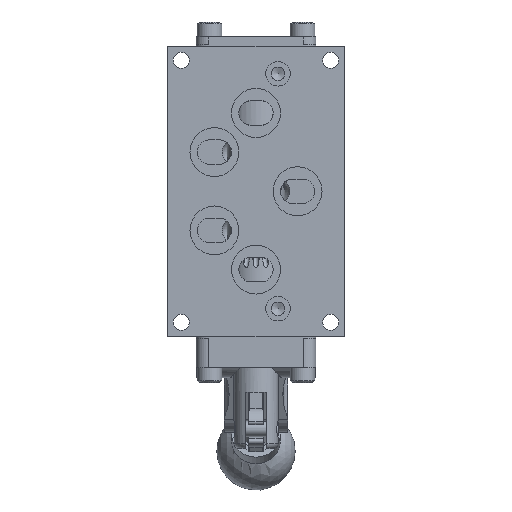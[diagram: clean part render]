
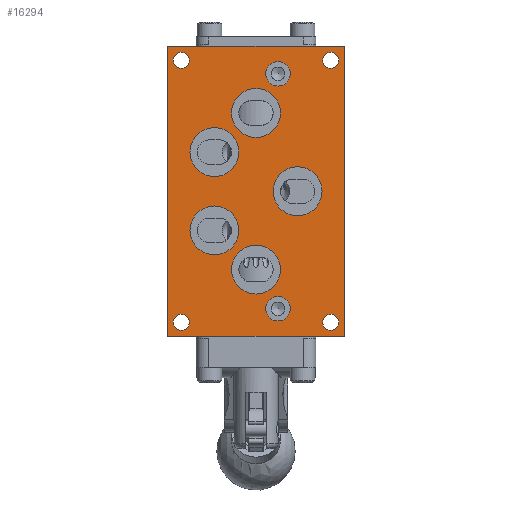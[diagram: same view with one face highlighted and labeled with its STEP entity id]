
A CAD part, front view. The second image highlights one B-rep face of the part: STEP entity #16294.
In plain terms, the highlighted planar face has unit normal (0, -1, 0).
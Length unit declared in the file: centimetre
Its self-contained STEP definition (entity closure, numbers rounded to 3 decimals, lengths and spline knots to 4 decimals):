
#1923=FACE_BOUND('',#3227,.T.);
#1924=FACE_BOUND('',#3228,.T.);
#1925=FACE_BOUND('',#3229,.T.);
#1926=FACE_BOUND('',#3230,.T.);
#1927=FACE_BOUND('',#3231,.T.);
#1928=FACE_BOUND('',#3232,.T.);
#1929=FACE_BOUND('',#3233,.T.);
#1930=FACE_BOUND('',#3234,.T.);
#1931=FACE_BOUND('',#3235,.T.);
#1932=FACE_BOUND('',#3236,.T.);
#1933=FACE_BOUND('',#3237,.T.);
#2202=FACE_OUTER_BOUND('',#3226,.T.);
#3226=EDGE_LOOP('',(#11917,#11918,#11919,#11920));
#3227=EDGE_LOOP('',(#11921));
#3228=EDGE_LOOP('',(#11922));
#3229=EDGE_LOOP('',(#11923));
#3230=EDGE_LOOP('',(#11924));
#3231=EDGE_LOOP('',(#11925));
#3232=EDGE_LOOP('',(#11926));
#3233=EDGE_LOOP('',(#11927));
#3234=EDGE_LOOP('',(#11928));
#3235=EDGE_LOOP('',(#11929));
#3236=EDGE_LOOP('',(#11930));
#3237=EDGE_LOOP('',(#11931));
#4325=CIRCLE('',#17470,0.3962);
#4329=CIRCLE('',#17478,0.3962);
#4331=CIRCLE('',#17483,0.7938);
#4333=CIRCLE('',#17487,0.7938);
#4335=CIRCLE('',#17491,0.7938);
#4337=CIRCLE('',#17495,0.7938);
#4339=CIRCLE('',#17499,0.7938);
#4342=CIRCLE('',#17504,0.258);
#4345=CIRCLE('',#17509,0.258);
#4348=CIRCLE('',#17514,0.258);
#4351=CIRCLE('',#17519,0.258);
#5144=LINE('',#24245,#6232);
#5158=LINE('',#24289,#6246);
#5285=LINE('',#25103,#6373);
#5286=LINE('',#25107,#6374);
#6232=VECTOR('',#19341,1.);
#6246=VECTOR('',#19373,1.);
#6373=VECTOR('',#19992,1.);
#6374=VECTOR('',#19999,1.);
#7341=VERTEX_POINT('',#24241);
#7343=VERTEX_POINT('',#24244);
#7362=VERTEX_POINT('',#24285);
#7364=VERTEX_POINT('',#24288);
#7512=VERTEX_POINT('',#24984);
#7517=VERTEX_POINT('',#25000);
#7519=VERTEX_POINT('',#25009);
#7521=VERTEX_POINT('',#25016);
#7523=VERTEX_POINT('',#25023);
#7525=VERTEX_POINT('',#25030);
#7527=VERTEX_POINT('',#25037);
#7531=VERTEX_POINT('',#25049);
#7535=VERTEX_POINT('',#25061);
#7539=VERTEX_POINT('',#25073);
#7543=VERTEX_POINT('',#25085);
#8896=EDGE_CURVE('',#7343,#7341,#5144,.T.);
#8917=EDGE_CURVE('',#7364,#7362,#5158,.T.);
#9135=EDGE_CURVE('',#7512,#7512,#4325,.T.);
#9142=EDGE_CURVE('',#7517,#7517,#4329,.T.);
#9146=EDGE_CURVE('',#7519,#7519,#4331,.T.);
#9149=EDGE_CURVE('',#7521,#7521,#4333,.T.);
#9152=EDGE_CURVE('',#7523,#7523,#4335,.T.);
#9155=EDGE_CURVE('',#7525,#7525,#4337,.T.);
#9158=EDGE_CURVE('',#7527,#7527,#4339,.T.);
#9165=EDGE_CURVE('',#7531,#7531,#4342,.T.);
#9171=EDGE_CURVE('',#7535,#7535,#4345,.T.);
#9177=EDGE_CURVE('',#7539,#7539,#4348,.T.);
#9183=EDGE_CURVE('',#7543,#7543,#4351,.T.);
#9192=EDGE_CURVE('',#7362,#7343,#5285,.T.);
#9193=EDGE_CURVE('',#7341,#7364,#5286,.T.);
#11917=ORIENTED_EDGE('',*,*,#8917,.T.);
#11918=ORIENTED_EDGE('',*,*,#9192,.T.);
#11919=ORIENTED_EDGE('',*,*,#8896,.T.);
#11920=ORIENTED_EDGE('',*,*,#9193,.T.);
#11921=ORIENTED_EDGE('',*,*,#9135,.T.);
#11922=ORIENTED_EDGE('',*,*,#9142,.T.);
#11923=ORIENTED_EDGE('',*,*,#9146,.T.);
#11924=ORIENTED_EDGE('',*,*,#9149,.T.);
#11925=ORIENTED_EDGE('',*,*,#9152,.T.);
#11926=ORIENTED_EDGE('',*,*,#9155,.T.);
#11927=ORIENTED_EDGE('',*,*,#9158,.T.);
#11928=ORIENTED_EDGE('',*,*,#9165,.T.);
#11929=ORIENTED_EDGE('',*,*,#9171,.T.);
#11930=ORIENTED_EDGE('',*,*,#9177,.T.);
#11931=ORIENTED_EDGE('',*,*,#9183,.T.);
#15804=PLANE('',#17530);
#16294=ADVANCED_FACE('',(#2202,#1923,#1924,#1925,#1926,#1927,#1928,#1929,
#1930,#1931,#1932,#1933),#15804,.T.);
#17470=AXIS2_PLACEMENT_3D('',#24985,#19848,#19849);
#17478=AXIS2_PLACEMENT_3D('',#25001,#19867,#19868);
#17483=AXIS2_PLACEMENT_3D('',#25010,#19879,#19880);
#17487=AXIS2_PLACEMENT_3D('',#25017,#19888,#19889);
#17491=AXIS2_PLACEMENT_3D('',#25024,#19897,#19898);
#17495=AXIS2_PLACEMENT_3D('',#25031,#19906,#19907);
#17499=AXIS2_PLACEMENT_3D('',#25038,#19915,#19916);
#17504=AXIS2_PLACEMENT_3D('',#25051,#19929,#19930);
#17509=AXIS2_PLACEMENT_3D('',#25063,#19942,#19943);
#17514=AXIS2_PLACEMENT_3D('',#25075,#19955,#19956);
#17519=AXIS2_PLACEMENT_3D('',#25087,#19968,#19969);
#17530=AXIS2_PLACEMENT_3D('',#25108,#20000,#20001);
#19341=DIRECTION('',(1.,0.,0.));
#19373=DIRECTION('',(-1.,0.,0.));
#19848=DIRECTION('center_axis',(0.,1.,0.));
#19849=DIRECTION('ref_axis',(1.,0.,0.));
#19867=DIRECTION('center_axis',(0.,1.,0.));
#19868=DIRECTION('ref_axis',(1.,0.,0.));
#19879=DIRECTION('center_axis',(0.,1.,0.));
#19880=DIRECTION('ref_axis',(1.,0.,0.));
#19888=DIRECTION('center_axis',(0.,1.,0.));
#19889=DIRECTION('ref_axis',(1.,0.,0.));
#19897=DIRECTION('center_axis',(0.,1.,0.));
#19898=DIRECTION('ref_axis',(1.,0.,0.));
#19906=DIRECTION('center_axis',(0.,1.,0.));
#19907=DIRECTION('ref_axis',(1.,0.,0.));
#19915=DIRECTION('center_axis',(0.,1.,0.));
#19916=DIRECTION('ref_axis',(1.,0.,0.));
#19929=DIRECTION('center_axis',(0.,1.,0.));
#19930=DIRECTION('ref_axis',(1.,0.,0.));
#19942=DIRECTION('center_axis',(0.,1.,0.));
#19943=DIRECTION('ref_axis',(1.,0.,0.));
#19955=DIRECTION('center_axis',(0.,1.,0.));
#19956=DIRECTION('ref_axis',(1.,0.,0.));
#19968=DIRECTION('center_axis',(0.,1.,0.));
#19969=DIRECTION('ref_axis',(1.,0.,0.));
#19992=DIRECTION('',(0.,0.,-1.));
#19999=DIRECTION('',(0.,0.,1.));
#20000=DIRECTION('center_axis',(0.,-1.,0.));
#20001=DIRECTION('ref_axis',(0.,0.,-1.));
#24241=CARTESIAN_POINT('',(2.8575,-1.6358,-4.7104));
#24244=CARTESIAN_POINT('',(-2.8575,-1.6358,-4.7104));
#24245=CARTESIAN_POINT('',(-2.8575,-1.6358,-4.7104));
#24285=CARTESIAN_POINT('',(-2.8575,-1.6358,4.7104));
#24288=CARTESIAN_POINT('',(2.8575,-1.6358,4.7104));
#24289=CARTESIAN_POINT('',(-2.8575,-1.6358,4.7104));
#24984=CARTESIAN_POINT('',(0.3175,-1.6358,-3.81));
#24985=CARTESIAN_POINT('Origin',(0.7137,-1.6358,-3.81));
#25000=CARTESIAN_POINT('',(0.3175,-1.6358,3.81));
#25001=CARTESIAN_POINT('Origin',(0.7137,-1.6358,3.81));
#25009=CARTESIAN_POINT('',(0.555,-1.6358,0.));
#25010=CARTESIAN_POINT('Origin',(1.3487,-1.6358,0.));
#25016=CARTESIAN_POINT('',(-0.7938,-1.6358,-2.54));
#25017=CARTESIAN_POINT('Origin',(0.,-1.6358,-2.54));
#25023=CARTESIAN_POINT('',(-0.7938,-1.6358,2.54));
#25024=CARTESIAN_POINT('Origin',(0.,-1.6358,2.54));
#25030=CARTESIAN_POINT('',(-2.1425,-1.6358,-1.27));
#25031=CARTESIAN_POINT('Origin',(-1.3487,-1.6358,-1.27));
#25037=CARTESIAN_POINT('',(-2.1425,-1.6358,1.27));
#25038=CARTESIAN_POINT('Origin',(-1.3487,-1.6358,1.27));
#25049=CARTESIAN_POINT('',(-2.6786,-1.6358,4.2469));
#25051=CARTESIAN_POINT('Origin',(-2.4206,-1.6358,4.2469));
#25061=CARTESIAN_POINT('',(2.1627,-1.6358,4.2469));
#25063=CARTESIAN_POINT('Origin',(2.4206,-1.6358,4.2469));
#25073=CARTESIAN_POINT('',(2.1627,-1.6358,-4.2469));
#25075=CARTESIAN_POINT('Origin',(2.4206,-1.6358,-4.2469));
#25085=CARTESIAN_POINT('',(-2.6786,-1.6358,-4.2469));
#25087=CARTESIAN_POINT('Origin',(-2.4206,-1.6358,-4.2469));
#25103=CARTESIAN_POINT('',(-2.8575,-1.6358,0.));
#25107=CARTESIAN_POINT('',(2.8575,-1.6358,0.));
#25108=CARTESIAN_POINT('Origin',(2.8575,-1.6358,0.));
